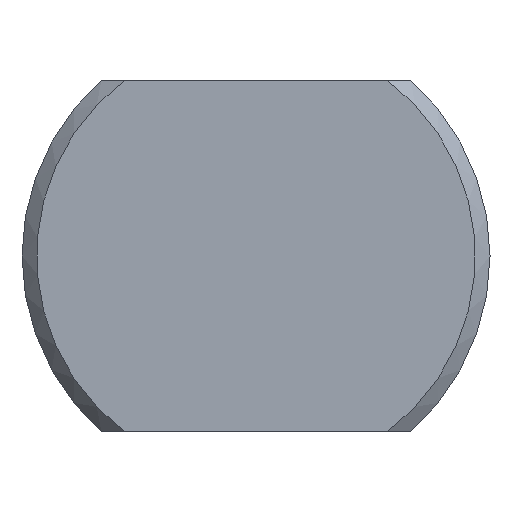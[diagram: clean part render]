
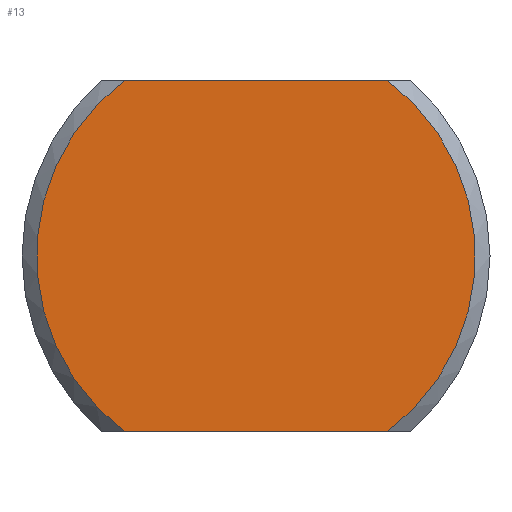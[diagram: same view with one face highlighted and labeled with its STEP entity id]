
A CAD part, front view. The second image highlights one B-rep face of the part: STEP entity #13.
In plain terms, the highlighted planar face has unit normal (0, -1, 0).
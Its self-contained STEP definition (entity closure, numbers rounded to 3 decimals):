
#13 = ADVANCED_FACE ( 'NONE', ( #394 ), #693, .F. ) ;
#39 = VERTEX_POINT ( 'NONE', #222 ) ;
#40 = VECTOR ( 'NONE', #539, 1000. ) ;
#54 = ORIENTED_EDGE ( 'NONE', *, *, #713, .F. ) ;
#62 = DIRECTION ( 'NONE',  ( 0., 0., 1. ) ) ;
#74 = CARTESIAN_POINT ( 'NONE',  ( 2.25, 0., 3. ) ) ;
#83 = CARTESIAN_POINT ( 'NONE',  ( 2.25, 0., -3. ) ) ;
#131 = CARTESIAN_POINT ( 'NONE',  ( -2.25, 0., 3. ) ) ;
#140 = CARTESIAN_POINT ( 'NONE',  ( 0., 0., 0. ) ) ;
#142 = EDGE_LOOP ( 'NONE', ( #54, #223, #690, #532 ) ) ;
#196 = EDGE_CURVE ( 'NONE', #360, #39, #251, .T. ) ;
#197 = DIRECTION ( 'NONE',  ( 0., -1., 0. ) ) ;
#214 = LINE ( 'NONE', #445, #621 ) ;
#219 = VERTEX_POINT ( 'NONE', #131 ) ;
#222 = CARTESIAN_POINT ( 'NONE',  ( -2.25, 0., -3. ) ) ;
#223 = ORIENTED_EDGE ( 'NONE', *, *, #701, .T. ) ;
#251 = LINE ( 'NONE', #359, #40 ) ;
#311 = CIRCLE ( 'NONE', #721, 3.75 ) ;
#325 = DIRECTION ( 'NONE',  ( 1., 0., 0. ) ) ;
#334 = CIRCLE ( 'NONE', #733, 3.75 ) ;
#336 = DIRECTION ( 'NONE',  ( 0., 1., 0. ) ) ;
#344 = AXIS2_PLACEMENT_3D ( 'NONE', #407, #336, #62 ) ;
#359 = CARTESIAN_POINT ( 'NONE',  ( 0., 0., -3. ) ) ;
#360 = VERTEX_POINT ( 'NONE', #83 ) ;
#394 = FACE_OUTER_BOUND ( 'NONE', #142, .T. ) ;
#396 = DIRECTION ( 'NONE',  ( 0., -1., 0. ) ) ;
#407 = CARTESIAN_POINT ( 'NONE',  ( 0., 0., 0. ) ) ;
#445 = CARTESIAN_POINT ( 'NONE',  ( 0., 0., 3. ) ) ;
#487 = DIRECTION ( 'NONE',  ( 0., 0., 1. ) ) ;
#532 = ORIENTED_EDGE ( 'NONE', *, *, #542, .T. ) ;
#539 = DIRECTION ( 'NONE',  ( -1., 0., 0. ) ) ;
#542 = EDGE_CURVE ( 'NONE', #360, #614, #334, .T. ) ;
#571 = DIRECTION ( 'NONE',  ( 0., 0., 1. ) ) ;
#614 = VERTEX_POINT ( 'NONE', #74 ) ;
#621 = VECTOR ( 'NONE', #325, 1000. ) ;
#622 = CARTESIAN_POINT ( 'NONE',  ( 0., 0., 0. ) ) ;
#690 = ORIENTED_EDGE ( 'NONE', *, *, #196, .F. ) ;
#693 = PLANE ( 'NONE',  #344 ) ;
#701 = EDGE_CURVE ( 'NONE', #219, #39, #311, .T. ) ;
#713 = EDGE_CURVE ( 'NONE', #219, #614, #214, .T. ) ;
#721 = AXIS2_PLACEMENT_3D ( 'NONE', #140, #197, #487 ) ;
#733 = AXIS2_PLACEMENT_3D ( 'NONE', #622, #396, #571 ) ;
